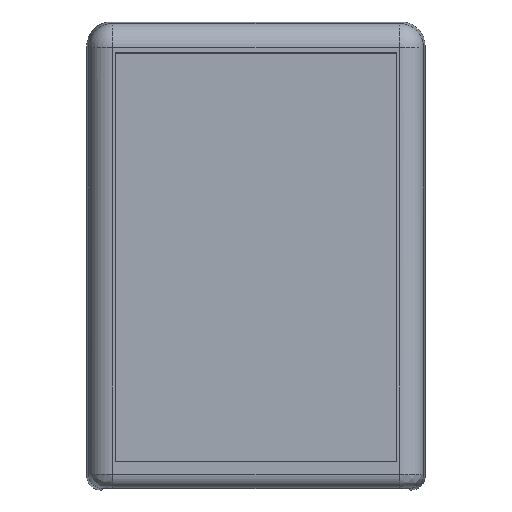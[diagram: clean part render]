
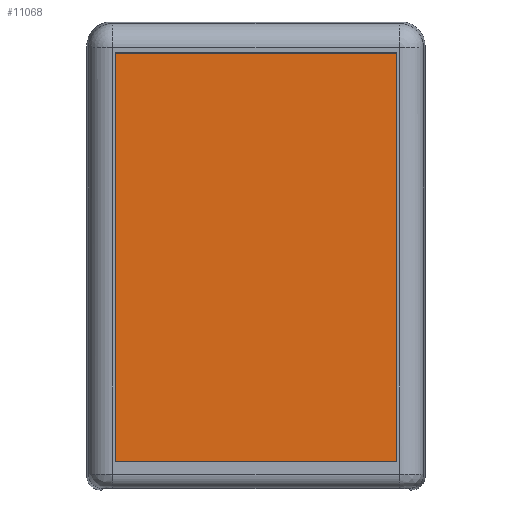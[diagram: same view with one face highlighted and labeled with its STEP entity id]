
A CAD part, top view. The second image highlights one B-rep face of the part: STEP entity #11068.
In plain terms, the highlighted planar face has unit normal (0, 0, 1) as drawn and (0, 0, -1) by its records, which use the part's own axes.
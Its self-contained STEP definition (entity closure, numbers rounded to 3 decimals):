
#1436=LINE('',#18698,#2424);
#1439=LINE('',#18703,#2427);
#1443=LINE('',#18710,#2431);
#1444=LINE('',#18712,#2432);
#2424=VECTOR('',#13904,80.25);
#2427=VECTOR('',#13909,55.058);
#2431=VECTOR('',#13917,80.25);
#2432=VECTOR('',#13920,55.058);
#3019=PLANE('',#11831);
#3552=FACE_OUTER_BOUND('',#4308,.T.);
#4308=EDGE_LOOP('',(#9329,#9330,#9331,#9332));
#5450=VERTEX_POINT('',#18695);
#5451=VERTEX_POINT('',#18697);
#5452=VERTEX_POINT('',#18701);
#5453=VERTEX_POINT('',#18708);
#6811=EDGE_CURVE('',#5451,#5450,#1436,.T.);
#6814=EDGE_CURVE('',#5450,#5452,#1439,.T.);
#6818=EDGE_CURVE('',#5452,#5453,#1443,.T.);
#6819=EDGE_CURVE('',#5453,#5451,#1444,.T.);
#9329=ORIENTED_EDGE('',*,*,#6814,.T.);
#9330=ORIENTED_EDGE('',*,*,#6818,.T.);
#9331=ORIENTED_EDGE('',*,*,#6819,.T.);
#9332=ORIENTED_EDGE('',*,*,#6811,.T.);
#11068=ADVANCED_FACE('',(#3552),#3019,.F.);
#11831=AXIS2_PLACEMENT_3D('',#18713,#13921,#13922);
#13904=DIRECTION('',(1.,0.,0.));
#13909=DIRECTION('',(0.,-1.,0.));
#13917=DIRECTION('',(-1.,0.,0.));
#13920=DIRECTION('',(0.,1.,0.));
#13921=DIRECTION('center_axis',(0.,0.,
1.));
#13922=DIRECTION('ref_axis',(1.,0.,0.));
#18695=CARTESIAN_POINT('',(40.391,27.529,-11.));
#18697=CARTESIAN_POINT('',(-39.859,27.529,-11.));
#18698=CARTESIAN_POINT('',(40.391,27.529,-11.));
#18701=CARTESIAN_POINT('',(40.391,-27.529,-11.));
#18703=CARTESIAN_POINT('',(40.391,-27.529,-11.));
#18708=CARTESIAN_POINT('',(-39.859,-27.529,-11.));
#18710=CARTESIAN_POINT('',(-39.859,-27.529,-11.));
#18712=CARTESIAN_POINT('',(-39.859,27.529,-11.));
#18713=CARTESIAN_POINT('Origin',(0.266,0.,
-11.));
